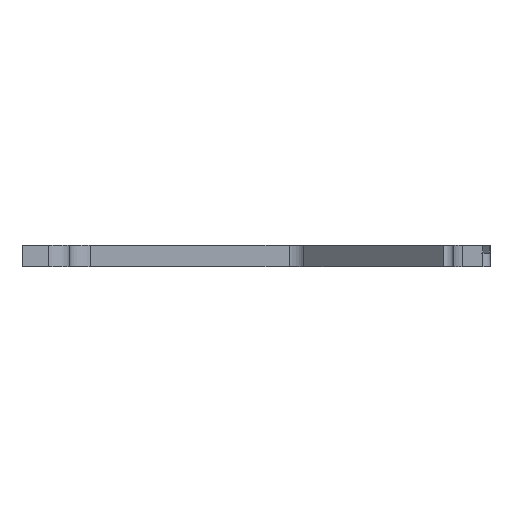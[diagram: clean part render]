
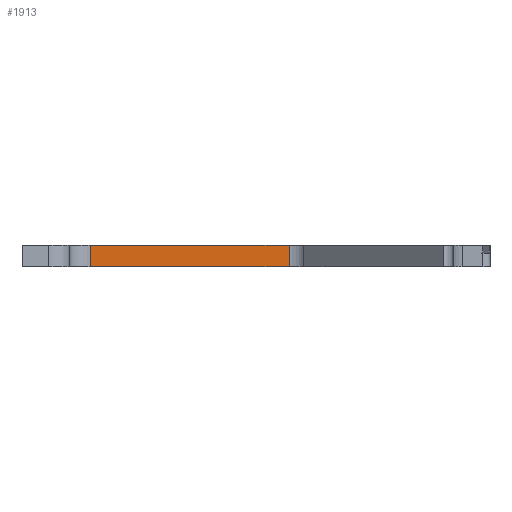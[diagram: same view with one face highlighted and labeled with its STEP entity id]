
A CAD part, front view. The second image highlights one B-rep face of the part: STEP entity #1913.
In plain terms, the highlighted planar face has unit normal (0, -1, 0).
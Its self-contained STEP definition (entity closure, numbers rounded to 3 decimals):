
#88=PLANE('',#2114);
#182=FACE_OUTER_BOUND('',#298,.T.);
#298=EDGE_LOOP('',(#1766,#1767,#1768,#1769));
#323=LINE('',#2752,#509);
#434=LINE('',#3114,#620);
#485=LINE('',#3231,#671);
#486=LINE('',#3233,#672);
#509=VECTOR('',#2183,10.);
#620=VECTOR('',#2506,10.);
#671=VECTOR('',#2671,10.);
#672=VECTOR('',#2674,10.);
#791=VERTEX_POINT('',#2749);
#792=VERTEX_POINT('',#2751);
#936=VERTEX_POINT('',#3111);
#937=VERTEX_POINT('',#3113);
#981=EDGE_CURVE('',#792,#791,#323,.T.);
#1166=EDGE_CURVE('',#937,#936,#434,.T.);
#1222=EDGE_CURVE('',#936,#792,#485,.T.);
#1223=EDGE_CURVE('',#937,#791,#486,.T.);
#1766=ORIENTED_EDGE('',*,*,#981,.T.);
#1767=ORIENTED_EDGE('',*,*,#1223,.F.);
#1768=ORIENTED_EDGE('',*,*,#1166,.T.);
#1769=ORIENTED_EDGE('',*,*,#1222,.T.);
#1913=ADVANCED_FACE('',(#182),#88,.T.);
#2114=AXIS2_PLACEMENT_3D('',#3232,#2672,#2673);
#2183=DIRECTION('',(1.,0.,0.));
#2506=DIRECTION('',(-1.,0.,0.));
#2671=DIRECTION('',(0.,0.,-1.));
#2672=DIRECTION('center_axis',(0.,-1.,0.));
#2673=DIRECTION('ref_axis',(-1.,0.,0.));
#2674=DIRECTION('',(0.,0.,-1.));
#2749=CARTESIAN_POINT('',(556.087,88.541,-12.));
#2751=CARTESIAN_POINT('',(442.71,88.541,-12.));
#2752=CARTESIAN_POINT('',(485.898,88.541,-12.));
#3111=CARTESIAN_POINT('',(442.71,88.541,0.));
#3113=CARTESIAN_POINT('',(556.087,88.541,0.));
#3114=CARTESIAN_POINT('',(485.898,88.541,0.));
#3231=CARTESIAN_POINT('',(442.71,88.541,182.5));
#3232=CARTESIAN_POINT('Origin',(556.087,88.541,182.5));
#3233=CARTESIAN_POINT('',(556.087,88.541,182.5));
